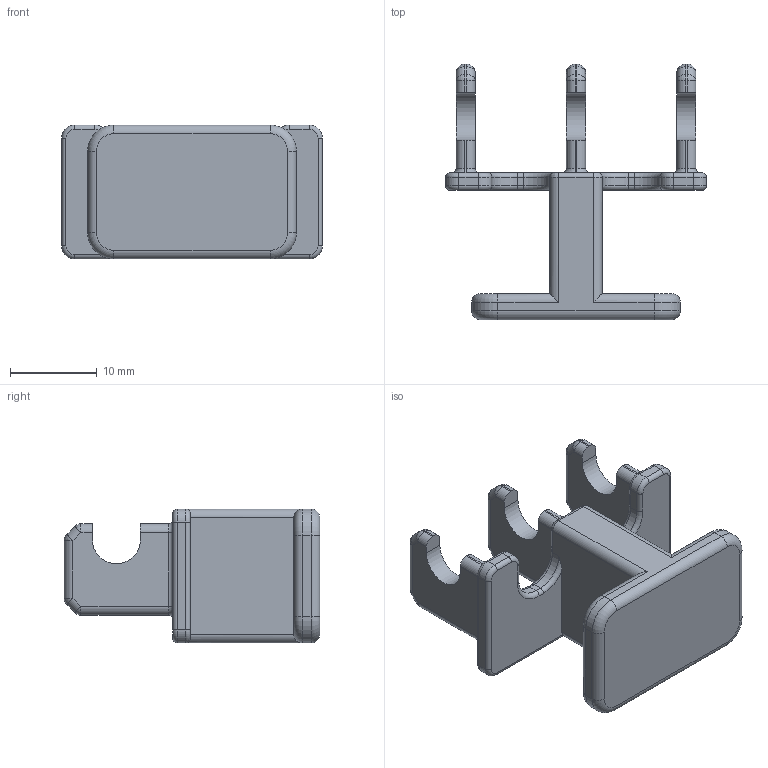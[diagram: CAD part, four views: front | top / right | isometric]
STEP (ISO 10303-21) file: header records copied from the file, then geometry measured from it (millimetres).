
FILE_DESCRIPTION((''),'2;1');
FILE_NAME('P503','2010-01-07T',('mth'),(''),'PRO/ENGINEER BY PARAMETRIC TECHNOLOGY CORPORATION, 2009360','PRO/ENGINEER BY PARAMETRIC TECHNOLOGY CORPORATION, 2009360','');
FILE_SCHEMA(('AUTOMOTIVE_DESIGN { 1 0 10303 214 1 1 1 1 }'));
Length unit declared in the file: millimetre
Products named in the file (1): P503
Bounding box: 30 x 29.4 x 15.4 mm (x, y, z)
Volume: 3554.7 mm3; surface area: 2861.7 mm2
Topology: 1 solids, 1 shells, 229 faces, 538 edges, 290 vertices
Faces by surface type: cylinder 113, plane 50, torus 40, sphere 24, bspline 2
Entity records: 6808 total; most frequent: DIRECTION 1218, CARTESIAN_POINT 1137, ORIENTED_EDGE 1028, EDGE_CURVE 514, AXIS2_PLACEMENT_3D 485, VERTEX_POINT 290, CIRCLE 258, VECTOR 248
